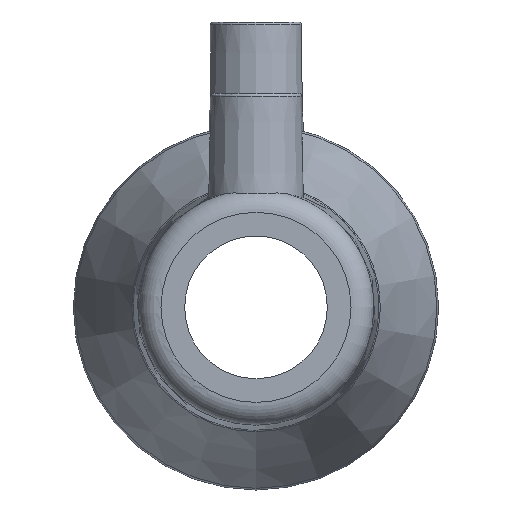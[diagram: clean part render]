
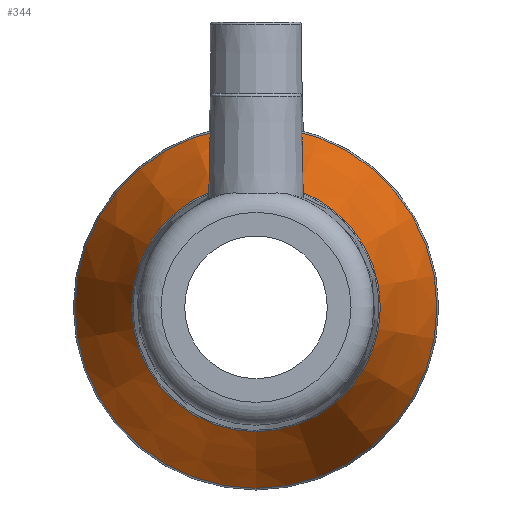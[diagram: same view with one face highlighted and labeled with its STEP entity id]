
A CAD part, left-side view. The second image highlights one B-rep face of the part: STEP entity #344.
In plain terms, the highlighted conical face has half-angle 21.991 degrees and reference radius 32 mm.
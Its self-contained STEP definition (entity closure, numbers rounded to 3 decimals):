
#50=CIRCLE('',#394,31.709);
#51=CIRCLE('',#395,21.791);
#83=ORIENTED_EDGE('',*,*,#149,.T.);
#84=ORIENTED_EDGE('',*,*,#150,.T.);
#149=EDGE_CURVE('',#182,#182,#50,.T.);
#150=EDGE_CURVE('',#183,#183,#51,.T.);
#182=VERTEX_POINT('',#614);
#183=VERTEX_POINT('',#616);
#220=EDGE_LOOP('',(#83));
#221=EDGE_LOOP('',(#84));
#281=FACE_BOUND('',#220,.T.);
#282=FACE_BOUND('',#221,.T.);
#336=CONICAL_SURFACE('',#393,32.,0.384);
#344=ADVANCED_FACE('',(#281,#282),#336,.T.);
#393=AXIS2_PLACEMENT_3D('',#612,#462,#463);
#394=AXIS2_PLACEMENT_3D('',#613,#464,#465);
#395=AXIS2_PLACEMENT_3D('',#615,#466,#467);
#462=DIRECTION('',(1.,0.,0.));
#463=DIRECTION('',(0.,0.,-1.));
#464=DIRECTION('',(-1.,0.,0.));
#465=DIRECTION('',(0.,0.,1.));
#466=DIRECTION('',(1.,0.,0.));
#467=DIRECTION('',(0.,0.,-1.));
#612=CARTESIAN_POINT('',(13.,0.,0.));
#613=CARTESIAN_POINT('',(12.279,0.,0.));
#614=CARTESIAN_POINT('',(12.279,0.,31.709));
#615=CARTESIAN_POINT('',(-12.279,0.,0.));
#616=CARTESIAN_POINT('',(-12.279,0.,-21.791));
